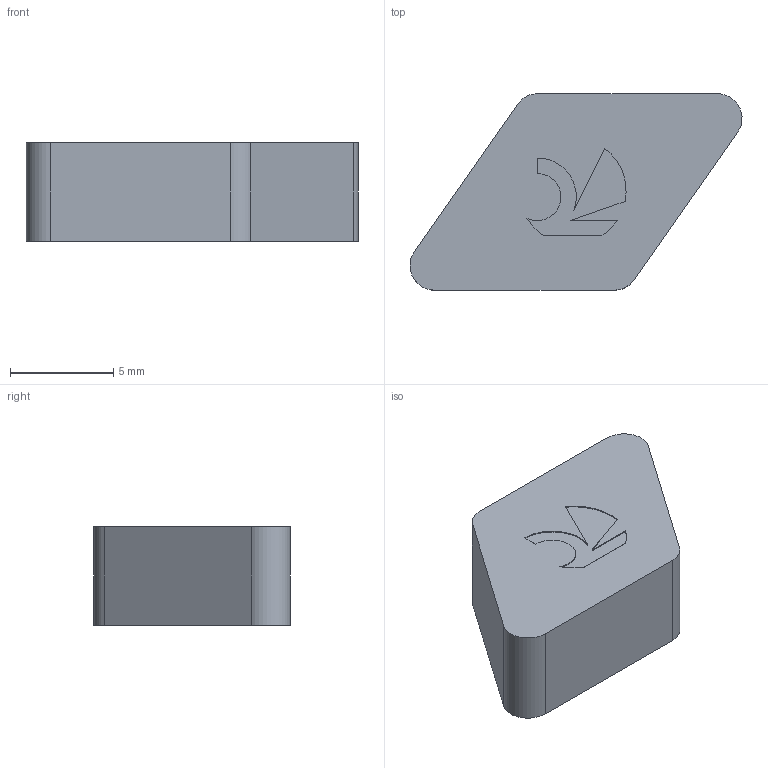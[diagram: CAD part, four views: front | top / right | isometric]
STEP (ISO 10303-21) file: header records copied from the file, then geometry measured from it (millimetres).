
FILE_DESCRIPTION(('no description'),'unknown implementation level');
FILE_NAME('solid_Nw9h5UlYpEXGO7GxgG0WEUkOxQ_1.STP',' ',('CIMSOURCE GmbH'),('CADClick - KiM GmbH - www.kimweb.de'),'unknown preprocess','ACIS','unknown authorization');
FILE_SCHEMA(('automotive_design'));
Length unit declared in the file: millimetre
Products named in the file (1): CUT
Bounding box: 16.1 x 9.53 x 4.76 mm (x, y, z)
Volume: 515.3 mm3; surface area: 419.5 mm2
Topology: 1 solids, 1 shells, 22 faces, 57 edges, 38 vertices
Faces by surface type: plane 12, cylinder 10
Entity records: 1366 total; most frequent: DIRECTION 127, CARTESIAN_POINT 120, STYLED_ITEM 118, PRESENTATION_STYLE_ASSIGNMENT 118, COLOUR_RGB 118, ORIENTED_EDGE 114, EDGE_CURVE 57, CURVE_STYLE 57
